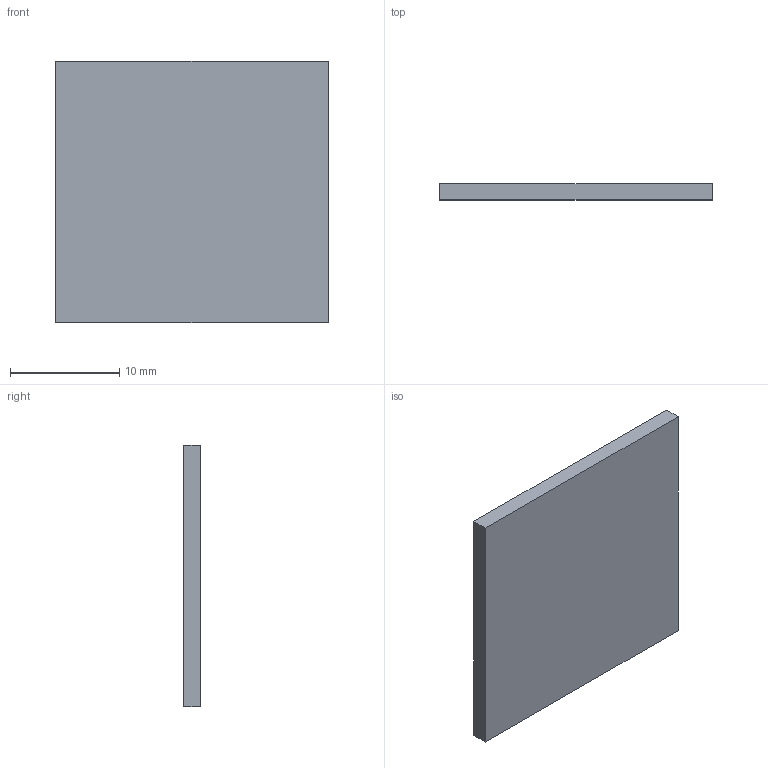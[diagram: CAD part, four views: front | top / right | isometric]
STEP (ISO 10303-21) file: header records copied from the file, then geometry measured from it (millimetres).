
FILE_DESCRIPTION(('Open CASCADE Model'),'2;1');
FILE_NAME('Open CASCADE Shape Model','2026-11-24T19:57:40',('Author'),( 'Open CASCADE'),'Open CASCADE STEP processor 7.8','Open CASCADE 7.8' ,'Unknown');
FILE_SCHEMA(('AUTOMOTIVE_DESIGN { 1 0 10303 214 1 1 1 1 }'));
Length unit declared in the file: millimetre
Products named in the file (1): Open CASCADE STEP translator 7.8 177
Bounding box: 25 x 1.5 x 24 mm (x, y, z)
Volume: 900 mm3; surface area: 1347 mm2
Topology: 1 solids, 1 shells, 6 faces, 12 edges, 8 vertices
Faces by surface type: plane 6
Entity records: 322 total; most frequent: CARTESIAN_POINT 51, DIRECTION 50, LINE 36, VECTOR 36, ORIENTED_EDGE 24, PCURVE 24, DEFINITIONAL_REPRESENTATION 24, EDGE_CURVE 12
